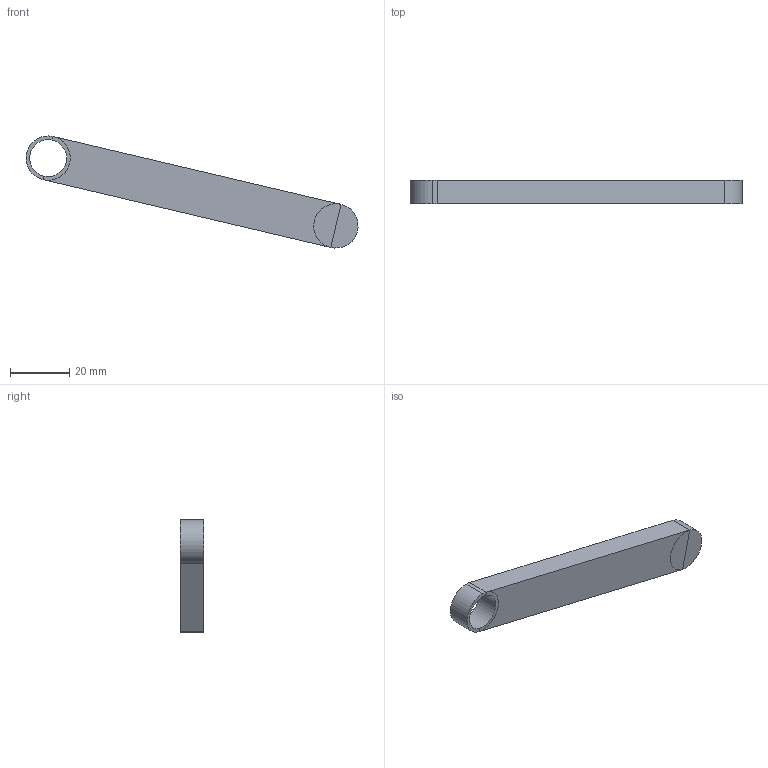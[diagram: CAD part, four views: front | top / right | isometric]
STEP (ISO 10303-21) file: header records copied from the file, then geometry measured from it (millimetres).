
FILE_DESCRIPTION(('Open CASCADE Model'),'2;1');
FILE_NAME('Open CASCADE Shape Model','2026-10-20T13:19:35',('Author'),( 'Open CASCADE'),'Open CASCADE STEP processor 7.9','Open CASCADE 7.9' ,'Unknown');
FILE_SCHEMA(('AUTOMOTIVE_DESIGN { 1 0 10303 214 1 1 1 1 }'));
Length unit declared in the file: millimetre
Products named in the file (1): Open CASCADE STEP translator 7.9 73
Bounding box: 112.37 x 8 x 37.92 mm (x, y, z)
Volume: 12437.4 mm3; surface area: 5401.2 mm2
Topology: 1 solids, 1 shells, 16 faces, 34 edges, 18 vertices
Faces by surface type: plane 12, cylinder 4
Full cylindrical faces by diameter (mm): 12.5 x1
Entity records: 880 total; most frequent: DIRECTION 154, CARTESIAN_POINT 137, ORIENTED_EDGE 68, PCURVE 68, DEFINITIONAL_REPRESENTATION 68, LINE 60, VECTOR 60, CIRCLE 42
